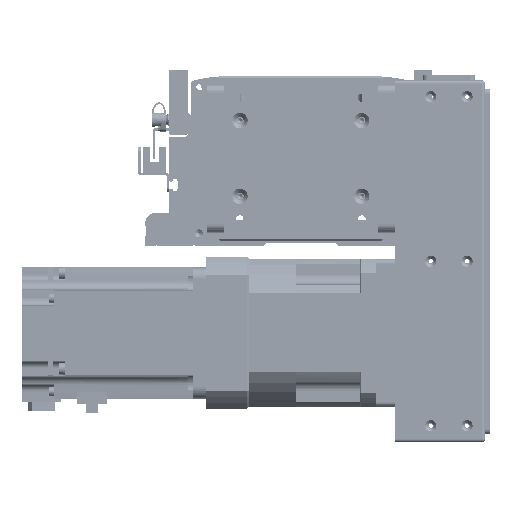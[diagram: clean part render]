
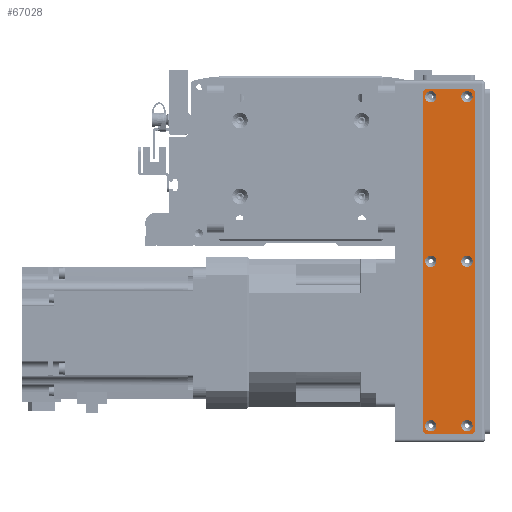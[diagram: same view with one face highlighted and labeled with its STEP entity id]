
A CAD part, front view. The second image highlights one B-rep face of the part: STEP entity #67028.
In plain terms, the highlighted planar face has unit normal (0, -1, 0).
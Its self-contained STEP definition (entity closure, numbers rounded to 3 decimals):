
#1802=FACE_BOUND('',#13931,.T.);
#1803=FACE_BOUND('',#13932,.T.);
#1804=FACE_BOUND('',#13933,.T.);
#1805=FACE_BOUND('',#13934,.T.);
#1806=FACE_BOUND('',#13935,.T.);
#1807=FACE_BOUND('',#13936,.T.);
#5060=PLANE('',#74114);
#9675=FACE_OUTER_BOUND('',#13930,.T.);
#13930=EDGE_LOOP('',(#63015,#63016,#63017,#63018,#63019,#63020,#63021,#63022));
#13931=EDGE_LOOP('',(#63023));
#13932=EDGE_LOOP('',(#63024));
#13933=EDGE_LOOP('',(#63025));
#13934=EDGE_LOOP('',(#63026));
#13935=EDGE_LOOP('',(#63027));
#13936=EDGE_LOOP('',(#63028));
#20175=LINE('',#115280,#26375);
#20176=LINE('',#115284,#26376);
#20177=LINE('',#115288,#26377);
#20178=LINE('',#115291,#26378);
#26375=VECTOR('',#93155,10.);
#26376=VECTOR('',#93158,10.);
#26377=VECTOR('',#93161,10.);
#26378=VECTOR('',#93164,10.);
#28953=CIRCLE('',#74082,3.45);
#28956=CIRCLE('',#74087,3.45);
#28959=CIRCLE('',#74092,3.45);
#28962=CIRCLE('',#74097,3.45);
#28965=CIRCLE('',#74102,3.45);
#28968=CIRCLE('',#74107,3.45);
#28971=CIRCLE('',#74112,3.);
#28973=CIRCLE('',#74115,3.);
#28974=CIRCLE('',#74116,3.);
#28975=CIRCLE('',#74117,3.);
#35116=VERTEX_POINT('',#115210);
#35119=VERTEX_POINT('',#115220);
#35122=VERTEX_POINT('',#115230);
#35125=VERTEX_POINT('',#115240);
#35128=VERTEX_POINT('',#115250);
#35131=VERTEX_POINT('',#115260);
#35134=VERTEX_POINT('',#115270);
#35135=VERTEX_POINT('',#115271);
#35138=VERTEX_POINT('',#115279);
#35139=VERTEX_POINT('',#115281);
#35140=VERTEX_POINT('',#115283);
#35141=VERTEX_POINT('',#115285);
#35142=VERTEX_POINT('',#115287);
#35143=VERTEX_POINT('',#115289);
#44413=EDGE_CURVE('',#35116,#35116,#28953,.T.);
#44418=EDGE_CURVE('',#35119,#35119,#28956,.T.);
#44423=EDGE_CURVE('',#35122,#35122,#28959,.T.);
#44428=EDGE_CURVE('',#35125,#35125,#28962,.T.);
#44433=EDGE_CURVE('',#35128,#35128,#28965,.T.);
#44438=EDGE_CURVE('',#35131,#35131,#28968,.T.);
#44443=EDGE_CURVE('',#35134,#35135,#28971,.T.);
#44447=EDGE_CURVE('',#35134,#35138,#20175,.T.);
#44448=EDGE_CURVE('',#35139,#35138,#28973,.T.);
#44449=EDGE_CURVE('',#35139,#35140,#20176,.T.);
#44450=EDGE_CURVE('',#35141,#35140,#28974,.T.);
#44451=EDGE_CURVE('',#35141,#35142,#20177,.T.);
#44452=EDGE_CURVE('',#35143,#35142,#28975,.T.);
#44453=EDGE_CURVE('',#35143,#35135,#20178,.T.);
#63015=ORIENTED_EDGE('',*,*,#44443,.F.);
#63016=ORIENTED_EDGE('',*,*,#44447,.T.);
#63017=ORIENTED_EDGE('',*,*,#44448,.F.);
#63018=ORIENTED_EDGE('',*,*,#44449,.T.);
#63019=ORIENTED_EDGE('',*,*,#44450,.F.);
#63020=ORIENTED_EDGE('',*,*,#44451,.T.);
#63021=ORIENTED_EDGE('',*,*,#44452,.F.);
#63022=ORIENTED_EDGE('',*,*,#44453,.T.);
#63023=ORIENTED_EDGE('',*,*,#44413,.T.);
#63024=ORIENTED_EDGE('',*,*,#44418,.T.);
#63025=ORIENTED_EDGE('',*,*,#44423,.T.);
#63026=ORIENTED_EDGE('',*,*,#44428,.T.);
#63027=ORIENTED_EDGE('',*,*,#44433,.T.);
#63028=ORIENTED_EDGE('',*,*,#44438,.T.);
#67028=ADVANCED_FACE('',(#9675,#1802,#1803,#1804,#1805,#1806,#1807),#5060,
 .T.);
#74082=AXIS2_PLACEMENT_3D('',#115211,#93075,#93076);
#74087=AXIS2_PLACEMENT_3D('',#115221,#93087,#93088);
#74092=AXIS2_PLACEMENT_3D('',#115231,#93099,#93100);
#74097=AXIS2_PLACEMENT_3D('',#115241,#93111,#93112);
#74102=AXIS2_PLACEMENT_3D('',#115251,#93123,#93124);
#74107=AXIS2_PLACEMENT_3D('',#115261,#93135,#93136);
#74112=AXIS2_PLACEMENT_3D('',#115272,#93147,#93148);
#74114=AXIS2_PLACEMENT_3D('',#115278,#93153,#93154);
#74115=AXIS2_PLACEMENT_3D('',#115282,#93156,#93157);
#74116=AXIS2_PLACEMENT_3D('',#115286,#93159,#93160);
#74117=AXIS2_PLACEMENT_3D('',#115290,#93162,#93163);
#93075=DIRECTION('center_axis',(0.,1.,0.));
#93076=DIRECTION('ref_axis',(1.,0.,0.));
#93087=DIRECTION('center_axis',(0.,1.,0.));
#93088=DIRECTION('ref_axis',(1.,0.,0.));
#93099=DIRECTION('center_axis',(0.,1.,0.));
#93100=DIRECTION('ref_axis',(1.,0.,0.));
#93111=DIRECTION('center_axis',(0.,1.,0.));
#93112=DIRECTION('ref_axis',(1.,0.,0.));
#93123=DIRECTION('center_axis',(0.,1.,0.));
#93124=DIRECTION('ref_axis',(1.,0.,0.));
#93135=DIRECTION('center_axis',(0.,1.,0.));
#93136=DIRECTION('ref_axis',(1.,0.,0.));
#93147=DIRECTION('center_axis',(0.,1.,0.));
#93148=DIRECTION('ref_axis',(-0.707,0.,0.707));
#93153=DIRECTION('center_axis',(0.,-1.,0.));
#93154=DIRECTION('ref_axis',(0.,0.,-1.));
#93155=DIRECTION('',(0.,0.,-1.));
#93156=DIRECTION('center_axis',(0.,1.,0.));
#93157=DIRECTION('ref_axis',(-0.707,0.,-0.707));
#93158=DIRECTION('',(1.,0.,0.));
#93159=DIRECTION('center_axis',(0.,1.,0.));
#93160=DIRECTION('ref_axis',(0.707,0.,-0.707));
#93161=DIRECTION('',(0.,0.,1.));
#93162=DIRECTION('center_axis',(0.,1.,0.));
#93163=DIRECTION('ref_axis',(0.707,0.,0.707));
#93164=DIRECTION('',(-1.,0.,0.));
#115210=CARTESIAN_POINT('',(96.55,-1.5,11.));
#115211=CARTESIAN_POINT('Origin',(100.,-1.5,11.));
#115220=CARTESIAN_POINT('',(-103.45,-1.5,-11.));
#115221=CARTESIAN_POINT('Origin',(-100.,-1.5,-11.));
#115230=CARTESIAN_POINT('',(-3.45,-1.5,11.));
#115231=CARTESIAN_POINT('Origin',(0.,-1.5,11.));
#115240=CARTESIAN_POINT('',(-3.45,-1.5,-11.));
#115241=CARTESIAN_POINT('Origin',(0.,-1.5,-11.));
#115250=CARTESIAN_POINT('',(-103.45,-1.5,11.));
#115251=CARTESIAN_POINT('Origin',(-100.,-1.5,11.));
#115260=CARTESIAN_POINT('',(96.55,-1.5,-11.));
#115261=CARTESIAN_POINT('Origin',(100.,-1.5,-11.));
#115270=CARTESIAN_POINT('',(-105.,-1.5,13.));
#115271=CARTESIAN_POINT('',(-102.,-1.5,16.));
#115272=CARTESIAN_POINT('Origin',(-102.,-1.5,13.));
#115278=CARTESIAN_POINT('Origin',(0.,-1.5,0.));
#115279=CARTESIAN_POINT('',(-105.,-1.5,-13.));
#115280=CARTESIAN_POINT('',(-105.,-1.5,16.));
#115281=CARTESIAN_POINT('',(-102.,-1.5,-16.));
#115282=CARTESIAN_POINT('Origin',(-102.,-1.5,-13.));
#115283=CARTESIAN_POINT('',(102.,-1.5,-16.));
#115284=CARTESIAN_POINT('',(-105.,-1.5,-16.));
#115285=CARTESIAN_POINT('',(105.,-1.5,-13.));
#115286=CARTESIAN_POINT('Origin',(102.,-1.5,-13.));
#115287=CARTESIAN_POINT('',(105.,-1.5,13.));
#115288=CARTESIAN_POINT('',(105.,-1.5,-16.));
#115289=CARTESIAN_POINT('',(102.,-1.5,16.));
#115290=CARTESIAN_POINT('Origin',(102.,-1.5,13.));
#115291=CARTESIAN_POINT('',(105.,-1.5,16.));
